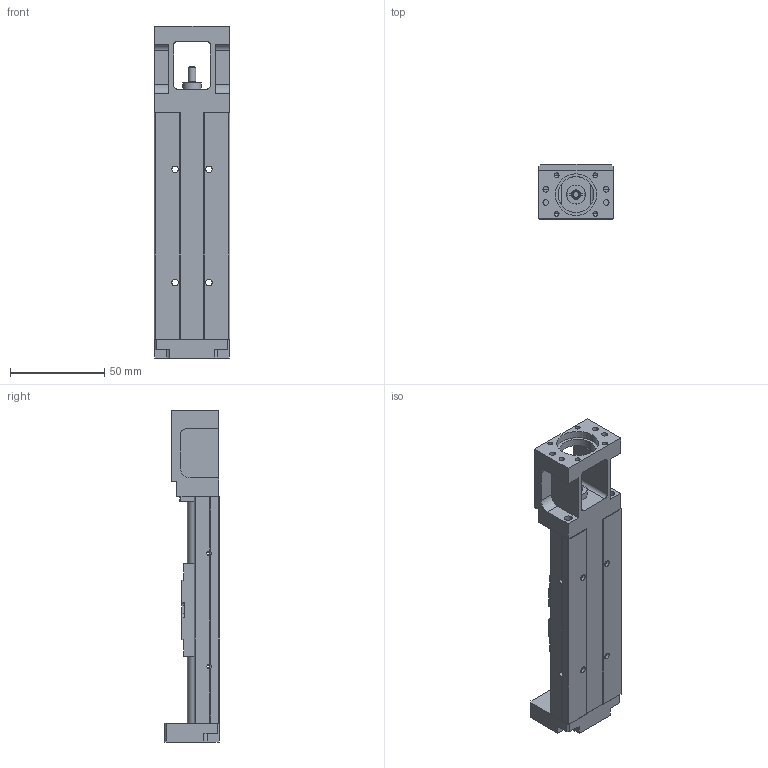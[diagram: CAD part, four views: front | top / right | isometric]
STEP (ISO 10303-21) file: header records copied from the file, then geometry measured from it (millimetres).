
FILE_DESCRIPTION (( 'STEP AP203' ), '1' );
FILE_NAME ('GSX40-50-LL08025-P7.STEP', '2013-11-02T01:34:33', ( '微软用户' ), ( '微软中国' ), 'SwSTEP 2.0', 'SolidWorks 2010', '' );
FILE_SCHEMA (( 'CONFIG_CONTROL_DESIGN' ));
Length unit declared in the file: millimetre
Products named in the file (1): GSX40-50-LL08025-P7
Bounding box: 40 x 29.3 x 176 mm (x, y, z)
Volume: 87918.8 mm3; surface area: 34428.3 mm2
Topology: 1 solids, 1 shells, 291 faces, 778 edges, 485 vertices
Faces by surface type: cylinder 126, plane 115, cone 50
Entity records: 9212 total; most frequent: CARTESIAN_POINT 1803, DIRECTION 1561, ORIENTED_EDGE 1492, EDGE_CURVE 746, AXIS2_PLACEMENT_3D 563, VERTEX_POINT 485, LINE 435, VECTOR 435
